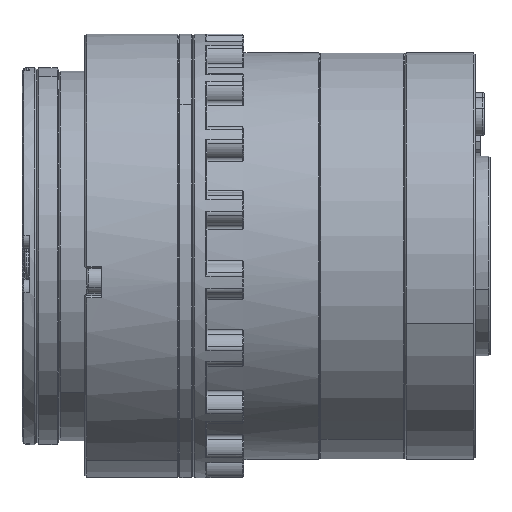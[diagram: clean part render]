
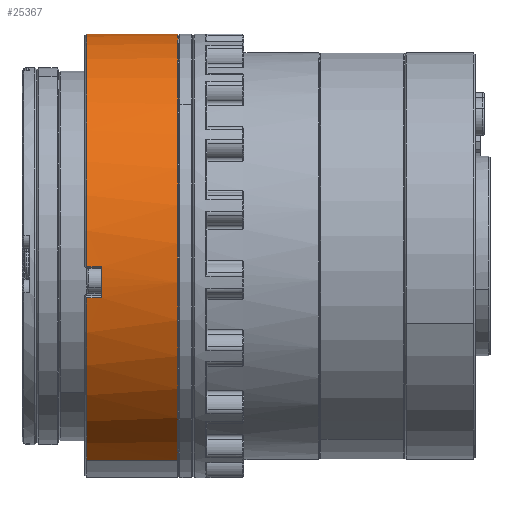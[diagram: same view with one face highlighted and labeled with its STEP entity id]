
A CAD part, left-side view. The second image highlights one B-rep face of the part: STEP entity #25367.
In plain terms, the highlighted cylindrical face has radius 60 mm (diameter 120 mm), a partial arc.
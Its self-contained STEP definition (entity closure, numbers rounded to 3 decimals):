
#228 = VECTOR ( 'NONE', #13032, 1000. ) ;
#538 = CIRCLE ( 'NONE', #57425, 60. ) ;
#1547 = ORIENTED_EDGE ( 'NONE', *, *, #17636, .T. ) ;
#2286 = VERTEX_POINT ( 'NONE', #41620 ) ;
#7000 = DIRECTION ( 'NONE',  ( 0., -1., 0. ) ) ;
#7196 = EDGE_CURVE ( 'NONE', #29004, #53096, #27689, .T. ) ;
#7562 = DIRECTION ( 'NONE',  ( 0., 1., 0. ) ) ;
#7674 = DIRECTION ( 'NONE',  ( -0.393, 0., -0.919 ) ) ;
#8122 = CARTESIAN_POINT ( 'NONE',  ( -5.363, -9.272, -58.441 ) ) ;
#9315 = ORIENTED_EDGE ( 'NONE', *, *, #45481, .T. ) ;
#10217 = CARTESIAN_POINT ( 'NONE',  ( 18.244, -9.272, -3.281 ) ) ;
#10419 = EDGE_CURVE ( 'NONE', #2286, #42468, #33090, .T. ) ;
#10682 = CARTESIAN_POINT ( 'NONE',  ( -40.681, -13.272, -14.587 ) ) ;
#11107 = DIRECTION ( 'NONE',  ( 0.393, 0., 0.919 ) ) ;
#11275 = LINE ( 'NONE', #25030, #16932 ) ;
#12506 = CARTESIAN_POINT ( 'NONE',  ( 18.244, -13.272, -3.281 ) ) ;
#13032 = DIRECTION ( 'NONE',  ( 0., -1., 0. ) ) ;
#15764 = LINE ( 'NONE', #45104, #53924 ) ;
#16932 = VECTOR ( 'NONE', #40014, 1000. ) ;
#17636 = EDGE_CURVE ( 'NONE', #50907, #29004, #11275, .T. ) ;
#18286 = ORIENTED_EDGE ( 'NONE', *, *, #10419, .T. ) ;
#18822 = VERTEX_POINT ( 'NONE', #10682 ) ;
#19748 = AXIS2_PLACEMENT_3D ( 'NONE', #40074, #30716, #40376 ) ;
#20620 = VECTOR ( 'NONE', #7562, 1000. ) ;
#21759 = EDGE_CURVE ( 'NONE', #38506, #18822, #538, .T. ) ;
#24257 = DIRECTION ( 'NONE',  ( 0., -1., 0. ) ) ;
#24737 = CARTESIAN_POINT ( 'NONE',  ( 41.852, -8.772, 51.88 ) ) ;
#24907 = CYLINDRICAL_SURFACE ( 'NONE', #34835, 60. ) ;
#25030 = CARTESIAN_POINT ( 'NONE',  ( 37.915, -8.772, 53.403 ) ) ;
#25329 = VERTEX_POINT ( 'NONE', #60121 ) ;
#25367 = ADVANCED_FACE ( 'NONE', ( #55109 ), #24907, .T. ) ;
#26041 = DIRECTION ( 'NONE',  ( -0.393, 0., -0.919 ) ) ;
#26882 = DIRECTION ( 'NONE',  ( -0.393, 0., -0.919 ) ) ;
#27689 = CIRCLE ( 'NONE', #42616, 60. ) ;
#29004 = VERTEX_POINT ( 'NONE', #52450 ) ;
#29884 = CARTESIAN_POINT ( 'NONE',  ( 18.244, -9.272, -3.281 ) ) ;
#30716 = DIRECTION ( 'NONE',  ( 0., 1., 0. ) ) ;
#31001 = LINE ( 'NONE', #53831, #20620 ) ;
#31947 = AXIS2_PLACEMENT_3D ( 'NONE', #12506, #50617, #26882 ) ;
#32105 = LINE ( 'NONE', #51461, #228 ) ;
#32932 = CARTESIAN_POINT ( 'NONE',  ( 37.915, -13.272, 53.403 ) ) ;
#33090 = CIRCLE ( 'NONE', #50015, 60. ) ;
#33659 = DIRECTION ( 'NONE',  ( 0.393, 0., 0.919 ) ) ;
#34835 = AXIS2_PLACEMENT_3D ( 'NONE', #55421, #7000, #26041 ) ;
#34967 = ORIENTED_EDGE ( 'NONE', *, *, #7196, .T. ) ;
#35368 = EDGE_CURVE ( 'NONE', #53096, #38506, #15764, .T. ) ;
#35484 = CARTESIAN_POINT ( 'NONE',  ( 18.244, -13.272, -3.281 ) ) ;
#37968 = ORIENTED_EDGE ( 'NONE', *, *, #35368, .T. ) ;
#38506 = VERTEX_POINT ( 'NONE', #42508 ) ;
#39123 = DIRECTION ( 'NONE',  ( 0., -1., 0. ) ) ;
#39596 = VERTEX_POINT ( 'NONE', #56054 ) ;
#39765 = ORIENTED_EDGE ( 'NONE', *, *, #43701, .T. ) ;
#40014 = DIRECTION ( 'NONE',  ( 0., 1., 0. ) ) ;
#40074 = CARTESIAN_POINT ( 'NONE',  ( 18.244, -33.872, -3.281 ) ) ;
#40376 = DIRECTION ( 'NONE',  ( -0.393, 0., -0.919 ) ) ;
#41620 = CARTESIAN_POINT ( 'NONE',  ( -40.681, -9.272, -14.587 ) ) ;
#42468 = VERTEX_POINT ( 'NONE', #8122 ) ;
#42508 = CARTESIAN_POINT ( 'NONE',  ( -41.684, -13.272, -6.209 ) ) ;
#42616 = AXIS2_PLACEMENT_3D ( 'NONE', #29884, #58320, #11107 ) ;
#43701 = EDGE_CURVE ( 'NONE', #54957, #50907, #45934, .T. ) ;
#45024 = VECTOR ( 'NONE', #39123, 1000. ) ;
#45089 = EDGE_CURVE ( 'NONE', #54957, #25329, #47874, .T. ) ;
#45104 = CARTESIAN_POINT ( 'NONE',  ( -41.684, -8.772, -6.209 ) ) ;
#45481 = EDGE_CURVE ( 'NONE', #42468, #39596, #32105, .T. ) ;
#45789 = ORIENTED_EDGE ( 'NONE', *, *, #52315, .T. ) ;
#45934 = CIRCLE ( 'NONE', #31947, 60. ) ;
#47874 = LINE ( 'NONE', #24737, #45024 ) ;
#48990 = ORIENTED_EDGE ( 'NONE', *, *, #21759, .T. ) ;
#49551 = DIRECTION ( 'NONE',  ( 0., -1., 0. ) ) ;
#49827 = CIRCLE ( 'NONE', #19748, 60. ) ;
#50015 = AXIS2_PLACEMENT_3D ( 'NONE', #10217, #24257, #33659 ) ;
#50617 = DIRECTION ( 'NONE',  ( 0., -1., 0. ) ) ;
#50907 = VERTEX_POINT ( 'NONE', #32932 ) ;
#51267 = EDGE_CURVE ( 'NONE', #18822, #2286, #31001, .T. ) ;
#51461 = CARTESIAN_POINT ( 'NONE',  ( -5.363, -8.772, -58.441 ) ) ;
#51802 = EDGE_LOOP ( 'NONE', ( #60341, #39765, #1547, #34967, #37968, #48990, #59194, #18286, #9315, #45789 ) ) ;
#52315 = EDGE_CURVE ( 'NONE', #39596, #25329, #49827, .T. ) ;
#52450 = CARTESIAN_POINT ( 'NONE',  ( 37.915, -9.272, 53.403 ) ) ;
#53096 = VERTEX_POINT ( 'NONE', #53584 ) ;
#53584 = CARTESIAN_POINT ( 'NONE',  ( -41.684, -9.272, -6.209 ) ) ;
#53831 = CARTESIAN_POINT ( 'NONE',  ( -40.681, -8.772, -14.587 ) ) ;
#53897 = DIRECTION ( 'NONE',  ( 0., -1., 0. ) ) ;
#53924 = VECTOR ( 'NONE', #53897, 1000. ) ;
#54957 = VERTEX_POINT ( 'NONE', #59295 ) ;
#55109 = FACE_OUTER_BOUND ( 'NONE', #51802, .T. ) ;
#55421 = CARTESIAN_POINT ( 'NONE',  ( 18.244, -8.772, -3.281 ) ) ;
#56054 = CARTESIAN_POINT ( 'NONE',  ( -5.363, -33.872, -58.441 ) ) ;
#57425 = AXIS2_PLACEMENT_3D ( 'NONE', #35484, #49551, #7674 ) ;
#58320 = DIRECTION ( 'NONE',  ( 0., -1., 0. ) ) ;
#59194 = ORIENTED_EDGE ( 'NONE', *, *, #51267, .T. ) ;
#59295 = CARTESIAN_POINT ( 'NONE',  ( 41.852, -13.272, 51.88 ) ) ;
#60121 = CARTESIAN_POINT ( 'NONE',  ( 41.852, -33.872, 51.88 ) ) ;
#60341 = ORIENTED_EDGE ( 'NONE', *, *, #45089, .F. ) ;
